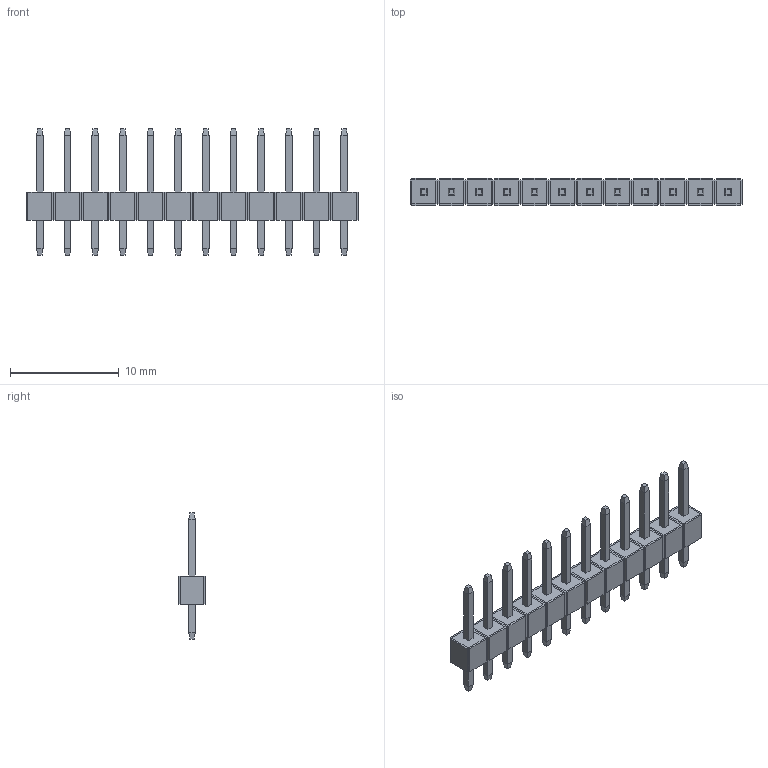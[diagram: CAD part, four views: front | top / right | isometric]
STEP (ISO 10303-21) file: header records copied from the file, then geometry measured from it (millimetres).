
FILE_DESCRIPTION(('FreeCAD Model'),'2;1');
FILE_NAME('Open CASCADE Shape Model','2021-06-28T20:11:33',('Author'),( ''),'Open CASCADE STEP processor 7.5','FreeCAD','Unknown');
FILE_SCHEMA(('AUTOMOTIVE_DESIGN { 1 0 10303 214 1 1 1 1 }'));
Length unit declared in the file: millimetre
Products named in the file (1): Group012
Bounding box: 30.48 x 2.54 x 11.6 mm (x, y, z)
Volume: 235 mm3; surface area: 592.3 mm2
Topology: 1 solids, 1 shells, 458 faces, 964 edges, 532 vertices
Faces by surface type: plane 458
Entity records: 25685 total; most frequent: CARTESIAN_POINT 3979, DIRECTION 3714, LINE 2796, VECTOR 2796, ORIENTED_EDGE 1928, PCURVE 1928, DEFINITIONAL_REPRESENTATION 1928, EDGE_CURVE 964
